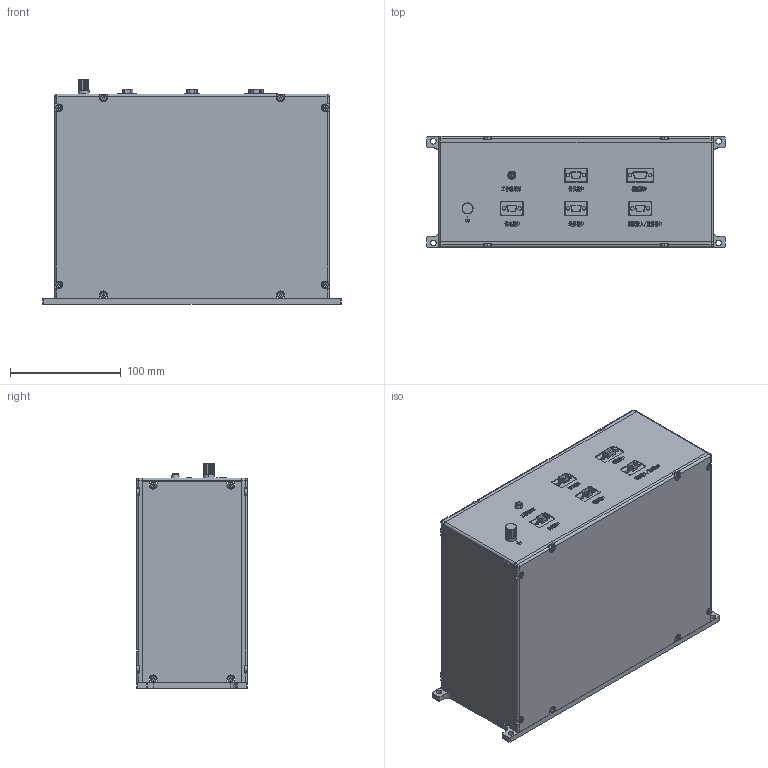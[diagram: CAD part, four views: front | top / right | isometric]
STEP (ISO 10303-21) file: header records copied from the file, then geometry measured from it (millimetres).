
FILE_DESCRIPTION (( 'STEP AP203' ), '1' );
FILE_NAME ('E80.D3S-Q.STEP', '2025-07-16T02:20:44', ( 'China' ), ( 'Home' ), 'SwSTEP 2.0', 'SolidWorks 2016', '' );
FILE_SCHEMA (( 'CONFIG_CONTROL_DESIGN' ));
Products named in the file (1): E80.D3S-Q
Bounding box: 270 x 100 x 202.9 mm (x, y, z)
Surface area: 193278.7 mm2 (no closed solid volume)
Topology: 0 solids, 82 shells, 971 faces, 7799 edges, 6726 vertices
Faces by surface type: plane 538, cylinder 257, bspline 70, cone 52, torus 48, sphere 6
Entity records: 85413 total; most frequent: CARTESIAN_POINT 33571, ORIENTED_EDGE 9554, DIRECTION 8685, EDGE_CURVE 7743, VERTEX_POINT 6724, LINE 5265, VECTOR 5265, AXIS2_PLACEMENT_3D 1710
